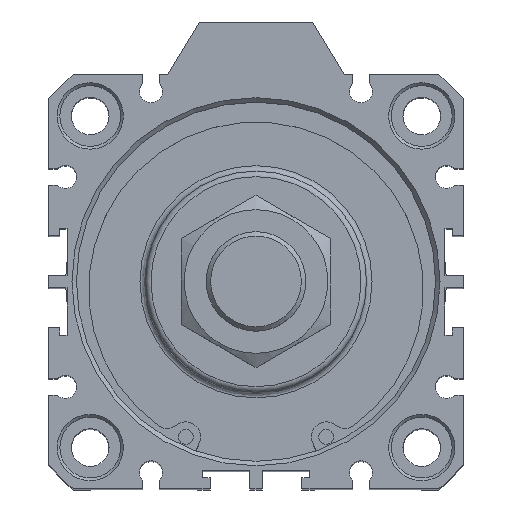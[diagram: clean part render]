
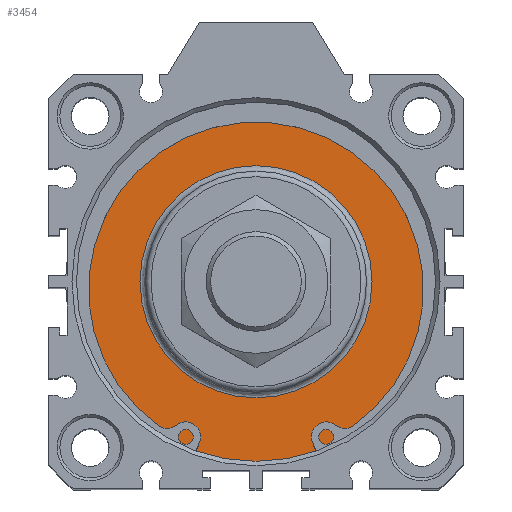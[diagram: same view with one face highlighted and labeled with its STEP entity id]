
A CAD part, top view. The second image highlights one B-rep face of the part: STEP entity #3454.
In plain terms, the highlighted planar face has unit normal (0, 0, 1).
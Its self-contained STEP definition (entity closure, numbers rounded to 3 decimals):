
#3403=CARTESIAN_POINT('',(2.99,22.555,102.3));
#3404=VERTEX_POINT('',#3403);
#3405=CARTESIAN_POINT('',(2.99,1.555,102.3));
#3406=DIRECTION('',(0.0,0.0,1.0));
#3407=DIRECTION('',(0.0,-1.0,0.0));
#3408=AXIS2_PLACEMENT_3D('',#3405,#3406,#3407);
#3409=CIRCLE('',#3408,21.);
#3410=EDGE_CURVE('',#3404,#3404,#3409,.T.);
#3435=CARTESIAN_POINT('',(2.99,27.805,102.3));
#3436=DIRECTION('',(0.0,0.0,1.0));
#3437=DIRECTION('',(1.0,0.0,0.0));
#3438=AXIS2_PLACEMENT_3D('',#3435,#3436,#3437);
#3439=PLANE('',#3438);
#3440=CARTESIAN_POINT('',(2.99,34.055,102.3));
#3441=VERTEX_POINT('',#3440);
#3442=CARTESIAN_POINT('',(2.99,1.555,102.3));
#3443=DIRECTION('',(0.0,0.0,-1.0));
#3444=DIRECTION('',(0.0,1.0,0.0));
#3445=AXIS2_PLACEMENT_3D('',#3442,#3443,#3444);
#3446=CIRCLE('',#3445,32.5);
#3447=EDGE_CURVE('',#3441,#3441,#3446,.T.);
#3448=ORIENTED_EDGE('',*,*,#3447,.F.);
#3449=EDGE_LOOP('',(#3448));
#3450=FACE_OUTER_BOUND('',#3449,.T.);
#3451=ORIENTED_EDGE('',*,*,#3410,.F.);
#3452=EDGE_LOOP('',(#3451));
#3453=FACE_BOUND('',#3452,.T.);
#3454=ADVANCED_FACE('',(#3450,#3453),#3439,.T.);
